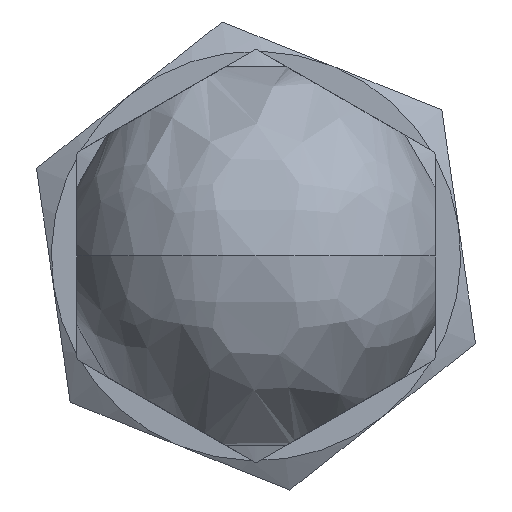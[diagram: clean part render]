
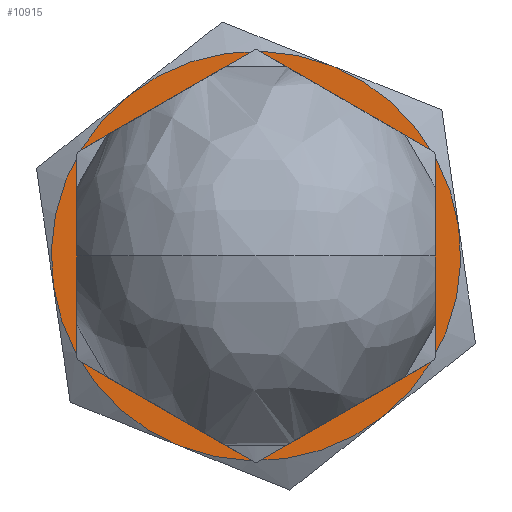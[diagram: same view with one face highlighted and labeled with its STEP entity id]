
A CAD part, front view. The second image highlights one B-rep face of the part: STEP entity #10915.
In plain terms, the highlighted planar face has unit normal (0, -1, 0).
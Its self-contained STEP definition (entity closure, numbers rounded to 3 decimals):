
#655 = CARTESIAN_POINT ( 'NONE',  ( -38.655, 82.577, 5.721 ) ) ;
#1074 = ORIENTED_EDGE ( 'NONE', *, *, #8434, .F. ) ;
#1147 = DIRECTION ( 'NONE',  ( 0.371, 0., 0.929 ) ) ;
#1249 = DIRECTION ( 'NONE',  ( -0.371, 0., -0.929 ) ) ;
#1606 = CIRCLE ( 'NONE', #14658, 8. ) ;
#1699 = DIRECTION ( 'NONE',  ( -0.371, 0., -0.929 ) ) ;
#1839 = AXIS2_PLACEMENT_3D ( 'NONE', #4831, #3191, #12762 ) ;
#1944 = VERTEX_POINT ( 'NONE', #6369 ) ;
#2564 = CARTESIAN_POINT ( 'NONE',  ( -38.655, 82.577, 5.721 ) ) ;
#3191 = DIRECTION ( 'NONE',  ( 0., -1., 0. ) ) ;
#3587 = DIRECTION ( 'NONE',  ( 0., 1., 0. ) ) ;
#3614 = AXIS2_PLACEMENT_3D ( 'NONE', #12778, #14165, #15380 ) ;
#3843 = EDGE_LOOP ( 'NONE', ( #11656, #9139, #6503, #16120, #14296, #14867 ) ) ;
#3889 = CIRCLE ( 'NONE', #12787, 5. ) ;
#3906 = CARTESIAN_POINT ( 'NONE',  ( -38.655, 82.577, 5.721 ) ) ;
#4341 = VERTEX_POINT ( 'NONE', #4521 ) ;
#4521 = CARTESIAN_POINT ( 'NONE',  ( -30.737, 82.577, 6.867 ) ) ;
#4831 = CARTESIAN_POINT ( 'NONE',  ( -38.655, 82.577, 5.721 ) ) ;
#4888 = CARTESIAN_POINT ( 'NONE',  ( -38.655, 82.577, 5.721 ) ) ;
#5013 = DIRECTION ( 'NONE',  ( 0., 1., 0. ) ) ;
#5014 = CARTESIAN_POINT ( 'NONE',  ( -35.688, 82.577, 13.151 ) ) ;
#6019 = CARTESIAN_POINT ( 'NONE',  ( -38.655, 82.577, 5.721 ) ) ;
#6158 = PLANE ( 'NONE',  #3614 ) ;
#6279 = DIRECTION ( 'NONE',  ( 0., -1., 0. ) ) ;
#6369 = CARTESIAN_POINT ( 'NONE',  ( -36.801, 82.577, 10.365 ) ) ;
#6503 = ORIENTED_EDGE ( 'NONE', *, *, #15908, .F. ) ;
#6510 = CARTESIAN_POINT ( 'NONE',  ( -33.704, 82.577, -0.563 ) ) ;
#7071 = VERTEX_POINT ( 'NONE', #9820 ) ;
#7182 = AXIS2_PLACEMENT_3D ( 'NONE', #2564, #7880, #1249 ) ;
#7195 = AXIS2_PLACEMENT_3D ( 'NONE', #4888, #6279, #1147 ) ;
#7514 = VERTEX_POINT ( 'NONE', #16532 ) ;
#7590 = VERTEX_POINT ( 'NONE', #6510 ) ;
#7743 = CIRCLE ( 'NONE', #7195, 8. ) ;
#7880 = DIRECTION ( 'NONE',  ( 0., 1., 0. ) ) ;
#8434 = EDGE_CURVE ( 'NONE', #1944, #7071, #14066, .T. ) ;
#8521 = CIRCLE ( 'NONE', #10178, 8. ) ;
#8585 = CIRCLE ( 'NONE', #7182, 8. ) ;
#8943 = DIRECTION ( 'NONE',  ( -0.371, 0., -0.929 ) ) ;
#9139 = ORIENTED_EDGE ( 'NONE', *, *, #11355, .F. ) ;
#9154 = CARTESIAN_POINT ( 'NONE',  ( -38.655, 82.577, 5.721 ) ) ;
#9446 = CIRCLE ( 'NONE', #13052, 8. ) ;
#9632 = AXIS2_PLACEMENT_3D ( 'NONE', #6019, #3587, #11244 ) ;
#9788 = EDGE_CURVE ( 'NONE', #7514, #11778, #1606, .T. ) ;
#9820 = CARTESIAN_POINT ( 'NONE',  ( -40.509, 82.577, 1.078 ) ) ;
#9961 = CARTESIAN_POINT ( 'NONE',  ( -43.606, 82.577, 12.005 ) ) ;
#10178 = AXIS2_PLACEMENT_3D ( 'NONE', #655, #14919, #1699 ) ;
#10654 = EDGE_CURVE ( 'NONE', #7071, #1944, #3889, .T. ) ;
#10762 = DIRECTION ( 'NONE',  ( -0.371, 0., -0.929 ) ) ;
#10915 = ADVANCED_FACE ( 'NONE', ( #11543, #14241 ), #6158, .F. ) ;
#11244 = DIRECTION ( 'NONE',  ( -0.371, 0., -0.929 ) ) ;
#11355 = EDGE_CURVE ( 'NONE', #7590, #7514, #8521, .T. ) ;
#11543 = FACE_BOUND ( 'NONE', #11741, .T. ) ;
#11656 = ORIENTED_EDGE ( 'NONE', *, *, #9788, .F. ) ;
#11741 = EDGE_LOOP ( 'NONE', ( #1074, #12507 ) ) ;
#11778 = VERTEX_POINT ( 'NONE', #16204 ) ;
#11837 = EDGE_CURVE ( 'NONE', #11778, #12780, #13226, .T. ) ;
#12507 = ORIENTED_EDGE ( 'NONE', *, *, #10654, .F. ) ;
#12762 = DIRECTION ( 'NONE',  ( 0.371, 0., 0.929 ) ) ;
#12778 = CARTESIAN_POINT ( 'NONE',  ( -47.234, 82.577, 9.147 ) ) ;
#12780 = VERTEX_POINT ( 'NONE', #9961 ) ;
#12787 = AXIS2_PLACEMENT_3D ( 'NONE', #9154, #14198, #12816 ) ;
#12816 = DIRECTION ( 'NONE',  ( 0.371, 0., 0.929 ) ) ;
#13052 = AXIS2_PLACEMENT_3D ( 'NONE', #3906, #15903, #10762 ) ;
#13175 = CARTESIAN_POINT ( 'NONE',  ( -38.655, 82.577, 5.721 ) ) ;
#13226 = CIRCLE ( 'NONE', #9632, 8. ) ;
#14066 = CIRCLE ( 'NONE', #1839, 5. ) ;
#14165 = DIRECTION ( 'NONE',  ( 0., 1., 0. ) ) ;
#14198 = DIRECTION ( 'NONE',  ( 0., -1., 0. ) ) ;
#14241 = FACE_OUTER_BOUND ( 'NONE', #3843, .T. ) ;
#14242 = EDGE_CURVE ( 'NONE', #15656, #12780, #7743, .T. ) ;
#14296 = ORIENTED_EDGE ( 'NONE', *, *, #14242, .T. ) ;
#14658 = AXIS2_PLACEMENT_3D ( 'NONE', #13175, #5013, #8943 ) ;
#14867 = ORIENTED_EDGE ( 'NONE', *, *, #11837, .F. ) ;
#14919 = DIRECTION ( 'NONE',  ( 0., 1., 0. ) ) ;
#15380 = DIRECTION ( 'NONE',  ( -0.371, 0., -0.929 ) ) ;
#15656 = VERTEX_POINT ( 'NONE', #5014 ) ;
#15903 = DIRECTION ( 'NONE',  ( 0., 1., 0. ) ) ;
#15908 = EDGE_CURVE ( 'NONE', #4341, #7590, #8585, .T. ) ;
#16120 = ORIENTED_EDGE ( 'NONE', *, *, #16816, .F. ) ;
#16204 = CARTESIAN_POINT ( 'NONE',  ( -46.572, 82.577, 4.575 ) ) ;
#16532 = CARTESIAN_POINT ( 'NONE',  ( -41.621, 82.577, -1.708 ) ) ;
#16816 = EDGE_CURVE ( 'NONE', #15656, #4341, #9446, .T. ) ;
